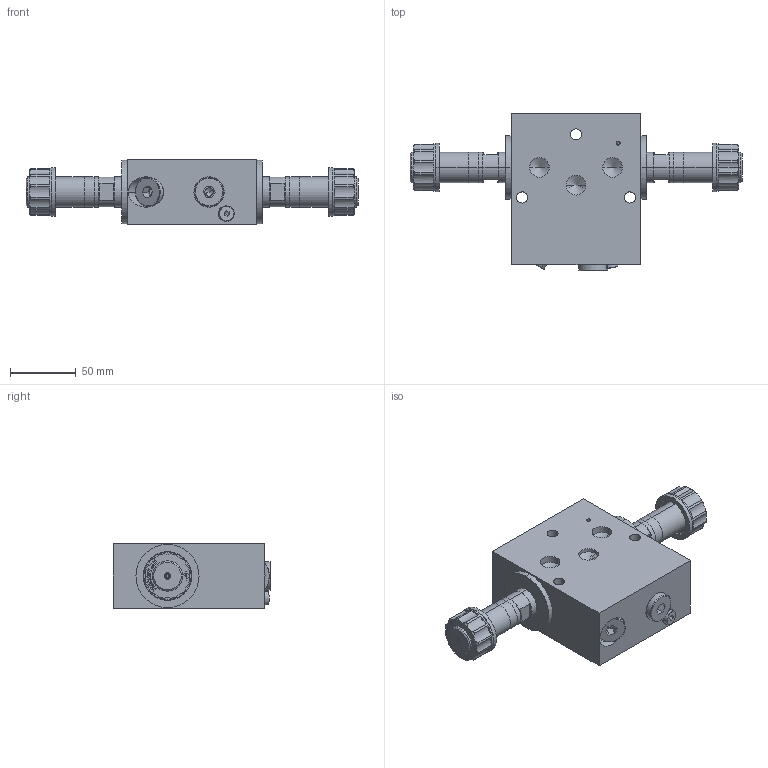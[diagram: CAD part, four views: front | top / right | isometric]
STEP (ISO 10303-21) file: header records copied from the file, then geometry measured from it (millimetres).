
FILE_DESCRIPTION (( 'STEP AP214' ), '1' );
FILE_NAME ('Control Section CMVA-MC06-B actuation at A and B.STEP', '2025-11-17T13:21:17', ( '' ), ( '' ), 'SwSTEP 2.0', 'SolidWorks 2024', '' );
FILE_SCHEMA (( 'AUTOMOTIVE_DESIGN' ));
Length unit declared in the file: millimetre
Products named in the file (1): Control Section CMVA-MC06-B actuation at A and B
Bounding box: 252.5 x 119.7 x 49 mm (x, y, z)
Volume: 569731.1 mm3; surface area: 112786.2 mm2
Topology: 29 solids, 29 shells, 1850 faces, 4514 edges, 2797 vertices
Faces by surface type: plane 1012, cylinder 368, cone 271, bspline 109, torus 90
Entity records: 58210 total; most frequent: CARTESIAN_POINT 14477, DIRECTION 9093, ORIENTED_EDGE 8944, EDGE_CURVE 4472, AXIS2_PLACEMENT_3D 3177, VERTEX_POINT 2797, VECTOR 2739, LINE 2739
